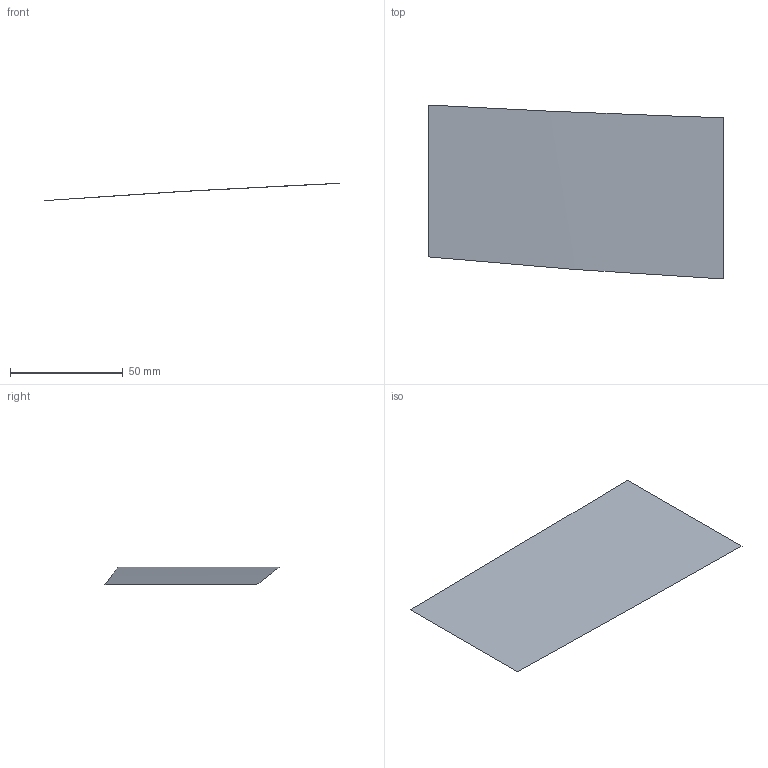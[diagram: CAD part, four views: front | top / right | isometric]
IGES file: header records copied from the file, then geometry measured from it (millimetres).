
Start section: START RECORD GO HERE
Global section: file name: w7.igs; native system: IBM CATIA IGES - CATIA SOLUTIONS V4RELEASE 1.9 REFRESH 01; preprocessor: CATIA SOLUTIONS V4RELEASE 1.9 REFRESH 01; author: cky; date: 990510.133752; units: millimetre
Bounding box: 130.99 x 77.13 x 7.67 mm (x, y, z)
Surface area: 9132.3 mm2 (no closed solid volume)
Topology: 0 solids, 0 shells, 1 faces, 6 edges, 6 vertices
Faces by surface type: extrusion 1
